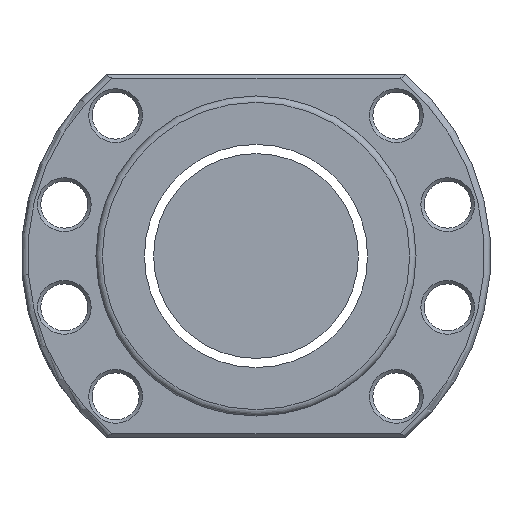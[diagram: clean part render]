
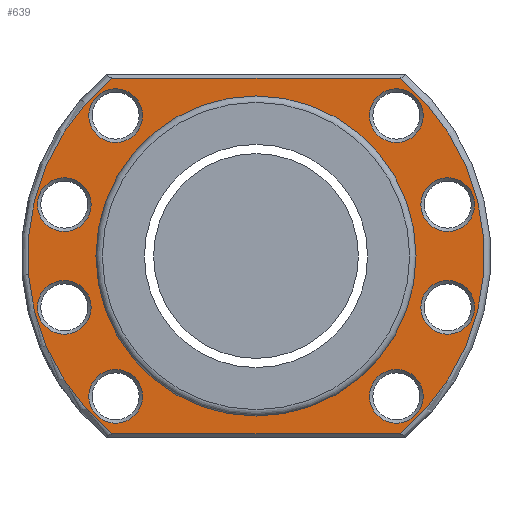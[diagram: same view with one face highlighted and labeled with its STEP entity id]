
A CAD part, left-side view. The second image highlights one B-rep face of the part: STEP entity #639.
In plain terms, the highlighted planar face has unit normal (-1, 0, 0).
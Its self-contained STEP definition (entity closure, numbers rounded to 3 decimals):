
#15 = DIRECTION ( 'NONE',  ( 0., 0., 1. ) ) ;
#53 = DIRECTION ( 'NONE',  ( 0., 0., -1. ) ) ;
#54 = CARTESIAN_POINT ( 'NONE',  ( -46.5, -33.517, -41.7 ) ) ;
#94 = ORIENTED_EDGE ( 'NONE', *, *, #505, .T. ) ;
#100 = CARTESIAN_POINT ( 'NONE',  ( -46.5, 0., 0. ) ) ;
#128 = ORIENTED_EDGE ( 'NONE', *, *, #2424, .T. ) ;
#142 = EDGE_CURVE ( 'NONE', #1660, #2492, #258, .T. ) ;
#172 = DIRECTION ( 'NONE',  ( 0., 0., 1. ) ) ;
#187 = FACE_BOUND ( 'NONE', #2268, .T. ) ;
#197 = ORIENTED_EDGE ( 'NONE', *, *, #2325, .T. ) ;
#254 = EDGE_CURVE ( 'NONE', #3016, #3016, #2153, .T. ) ;
#255 = CARTESIAN_POINT ( 'NONE',  ( -46.5, 44.916, -12.035 ) ) ;
#258 = LINE ( 'NONE', #603, #3193 ) ;
#262 = VERTEX_POINT ( 'NONE', #1552 ) ;
#290 = CARTESIAN_POINT ( 'NONE',  ( -46.5, 32.88, -32.88 ) ) ;
#373 = AXIS2_PLACEMENT_3D ( 'NONE', #645, #1918, #1693 ) ;
#391 = AXIS2_PLACEMENT_3D ( 'NONE', #1178, #2251, #172 ) ;
#418 = CARTESIAN_POINT ( 'NONE',  ( -46.5, 55., 41.7 ) ) ;
#467 = ORIENTED_EDGE ( 'NONE', *, *, #1555, .T. ) ;
#471 = CARTESIAN_POINT ( 'NONE',  ( -46.5, -32.88, -26.58 ) ) ;
#481 = EDGE_LOOP ( 'NONE', ( #2071 ) ) ;
#503 = DIRECTION ( 'NONE',  ( 1., 0., 0. ) ) ;
#504 = AXIS2_PLACEMENT_3D ( 'NONE', #2324, #960, #2306 ) ;
#505 = EDGE_CURVE ( 'NONE', #2246, #2246, #1601, .T. ) ;
#519 = DIRECTION ( 'NONE',  ( 0., 0., 1. ) ) ;
#527 = DIRECTION ( 'NONE',  ( 0., 0., 1. ) ) ;
#598 = AXIS2_PLACEMENT_3D ( 'NONE', #290, #3195, #527 ) ;
#603 = CARTESIAN_POINT ( 'NONE',  ( -46.5, 55., -41.7 ) ) ;
#636 = ORIENTED_EDGE ( 'NONE', *, *, #3070, .T. ) ;
#639 = ADVANCED_FACE ( 'NONE', ( #1780, #1273, #3362, #712, #187, #2333, #2795, #1015, #1226, #2557 ), #696, .T. ) ;
#645 = CARTESIAN_POINT ( 'NONE',  ( -46.5, -44.916, -12.035 ) ) ;
#668 = AXIS2_PLACEMENT_3D ( 'NONE', #2130, #2667, #1124 ) ;
#696 = PLANE ( 'NONE',  #2753 ) ;
#712 = FACE_BOUND ( 'NONE', #2208, .T. ) ;
#760 = DIRECTION ( 'NONE',  ( 0., 0., 1. ) ) ;
#790 = CARTESIAN_POINT ( 'NONE',  ( -46.5, 32.88, 39.18 ) ) ;
#800 = CARTESIAN_POINT ( 'NONE',  ( -46.5, 33.517, -41.7 ) ) ;
#803 = DIRECTION ( 'NONE',  ( 0., -1., 0. ) ) ;
#833 = EDGE_LOOP ( 'NONE', ( #1731 ) ) ;
#898 = ORIENTED_EDGE ( 'NONE', *, *, #2914, .T. ) ;
#920 = CIRCLE ( 'NONE', #3344, 53.5 ) ;
#960 = DIRECTION ( 'NONE',  ( 1., 0., 0. ) ) ;
#1000 = CARTESIAN_POINT ( 'NONE',  ( -46.5, 0., 0. ) ) ;
#1015 = FACE_BOUND ( 'NONE', #1740, .T. ) ;
#1102 = CIRCLE ( 'NONE', #3030, 37.5 ) ;
#1124 = DIRECTION ( 'NONE',  ( 0., 0., 1. ) ) ;
#1178 = CARTESIAN_POINT ( 'NONE',  ( -46.5, -32.88, 32.88 ) ) ;
#1219 = CIRCLE ( 'NONE', #504, 6.3 ) ;
#1226 = FACE_BOUND ( 'NONE', #481, .T. ) ;
#1267 = EDGE_LOOP ( 'NONE', ( #467 ) ) ;
#1268 = AXIS2_PLACEMENT_3D ( 'NONE', #1000, #3039, #519 ) ;
#1270 = ORIENTED_EDGE ( 'NONE', *, *, #142, .T. ) ;
#1271 = CARTESIAN_POINT ( 'NONE',  ( -46.5, 44.916, -5.735 ) ) ;
#1273 = FACE_BOUND ( 'NONE', #833, .T. ) ;
#1297 = ORIENTED_EDGE ( 'NONE', *, *, #2254, .T. ) ;
#1324 = AXIS2_PLACEMENT_3D ( 'NONE', #2000, #2995, #3048 ) ;
#1393 = CARTESIAN_POINT ( 'NONE',  ( -46.5, 33.517, 41.7 ) ) ;
#1418 = CIRCLE ( 'NONE', #598, 6.3 ) ;
#1423 = DIRECTION ( 'NONE',  ( 0., 0., 1. ) ) ;
#1503 = VERTEX_POINT ( 'NONE', #2113 ) ;
#1509 = VERTEX_POINT ( 'NONE', #1393 ) ;
#1534 = EDGE_LOOP ( 'NONE', ( #898 ) ) ;
#1551 = ORIENTED_EDGE ( 'NONE', *, *, #3184, .T. ) ;
#1552 = CARTESIAN_POINT ( 'NONE',  ( -46.5, 0., -37.5 ) ) ;
#1555 = EDGE_CURVE ( 'NONE', #3392, #3392, #3194, .T. ) ;
#1568 = VERTEX_POINT ( 'NONE', #790 ) ;
#1601 = CIRCLE ( 'NONE', #2039, 6.3 ) ;
#1628 = ORIENTED_EDGE ( 'NONE', *, *, #2040, .T. ) ;
#1660 = VERTEX_POINT ( 'NONE', #800 ) ;
#1681 = EDGE_CURVE ( 'NONE', #262, #262, #1102, .T. ) ;
#1693 = DIRECTION ( 'NONE',  ( 0., 0., 1. ) ) ;
#1731 = ORIENTED_EDGE ( 'NONE', *, *, #3291, .T. ) ;
#1740 = EDGE_LOOP ( 'NONE', ( #636 ) ) ;
#1748 = CIRCLE ( 'NONE', #373, 6.3 ) ;
#1780 = FACE_BOUND ( 'NONE', #2848, .T. ) ;
#1918 = DIRECTION ( 'NONE',  ( 1., 0., 0. ) ) ;
#1921 = CARTESIAN_POINT ( 'NONE',  ( -46.5, 0., 0. ) ) ;
#2000 = CARTESIAN_POINT ( 'NONE',  ( -46.5, -32.88, -32.88 ) ) ;
#2020 = CARTESIAN_POINT ( 'NONE',  ( -46.5, -32.88, 39.18 ) ) ;
#2039 = AXIS2_PLACEMENT_3D ( 'NONE', #2588, #503, #760 ) ;
#2040 = EDGE_CURVE ( 'NONE', #2492, #1503, #2321, .T. ) ;
#2053 = VERTEX_POINT ( 'NONE', #2844 ) ;
#2071 = ORIENTED_EDGE ( 'NONE', *, *, #1681, .T. ) ;
#2085 = CARTESIAN_POINT ( 'NONE',  ( -46.5, 44.916, 18.335 ) ) ;
#2113 = CARTESIAN_POINT ( 'NONE',  ( -46.5, -33.517, 41.7 ) ) ;
#2128 = DIRECTION ( 'NONE',  ( 1., 0., 0. ) ) ;
#2130 = CARTESIAN_POINT ( 'NONE',  ( -46.5, 44.916, 12.035 ) ) ;
#2153 = CIRCLE ( 'NONE', #391, 6.3 ) ;
#2158 = VECTOR ( 'NONE', #3308, 1000. ) ;
#2208 = EDGE_LOOP ( 'NONE', ( #2457 ) ) ;
#2246 = VERTEX_POINT ( 'NONE', #3293 ) ;
#2251 = DIRECTION ( 'NONE',  ( 1., 0., 0. ) ) ;
#2254 = EDGE_CURVE ( 'NONE', #1503, #1509, #2278, .T. ) ;
#2265 = DIRECTION ( 'NONE',  ( 0., 0., 1. ) ) ;
#2268 = EDGE_LOOP ( 'NONE', ( #128 ) ) ;
#2278 = LINE ( 'NONE', #418, #2158 ) ;
#2297 = VERTEX_POINT ( 'NONE', #2331 ) ;
#2306 = DIRECTION ( 'NONE',  ( 0., 0., 1. ) ) ;
#2321 = CIRCLE ( 'NONE', #1268, 53.5 ) ;
#2324 = CARTESIAN_POINT ( 'NONE',  ( -46.5, 32.88, 32.88 ) ) ;
#2325 = EDGE_CURVE ( 'NONE', #3148, #3148, #2815, .T. ) ;
#2331 = CARTESIAN_POINT ( 'NONE',  ( -46.5, 32.88, -26.58 ) ) ;
#2333 = FACE_BOUND ( 'NONE', #1267, .T. ) ;
#2416 = CIRCLE ( 'NONE', #2687, 6.3 ) ;
#2424 = EDGE_CURVE ( 'NONE', #1568, #1568, #1219, .T. ) ;
#2457 = ORIENTED_EDGE ( 'NONE', *, *, #254, .T. ) ;
#2492 = VERTEX_POINT ( 'NONE', #54 ) ;
#2557 = FACE_OUTER_BOUND ( 'NONE', #2858, .T. ) ;
#2588 = CARTESIAN_POINT ( 'NONE',  ( -46.5, -44.916, 12.035 ) ) ;
#2667 = DIRECTION ( 'NONE',  ( 1., 0., 0. ) ) ;
#2687 = AXIS2_PLACEMENT_3D ( 'NONE', #255, #2128, #15 ) ;
#2699 = DIRECTION ( 'NONE',  ( -1., 0., 0. ) ) ;
#2753 = AXIS2_PLACEMENT_3D ( 'NONE', #2833, #3069, #2265 ) ;
#2795 = FACE_BOUND ( 'NONE', #1534, .T. ) ;
#2815 = CIRCLE ( 'NONE', #1324, 6.3 ) ;
#2833 = CARTESIAN_POINT ( 'NONE',  ( -46.5, 55., 0. ) ) ;
#2844 = CARTESIAN_POINT ( 'NONE',  ( -46.5, -44.916, -5.735 ) ) ;
#2848 = EDGE_LOOP ( 'NONE', ( #197 ) ) ;
#2858 = EDGE_LOOP ( 'NONE', ( #1551, #1270, #1628, #1297 ) ) ;
#2910 = EDGE_LOOP ( 'NONE', ( #94 ) ) ;
#2914 = EDGE_CURVE ( 'NONE', #3375, #3375, #2416, .T. ) ;
#2995 = DIRECTION ( 'NONE',  ( 1., 0., 0. ) ) ;
#3016 = VERTEX_POINT ( 'NONE', #2020 ) ;
#3030 = AXIS2_PLACEMENT_3D ( 'NONE', #1921, #3214, #53 ) ;
#3039 = DIRECTION ( 'NONE',  ( -1., 0., 0. ) ) ;
#3048 = DIRECTION ( 'NONE',  ( 0., 0., 1. ) ) ;
#3069 = DIRECTION ( 'NONE',  ( -1., 0., 0. ) ) ;
#3070 = EDGE_CURVE ( 'NONE', #2297, #2297, #1418, .T. ) ;
#3148 = VERTEX_POINT ( 'NONE', #471 ) ;
#3184 = EDGE_CURVE ( 'NONE', #1509, #1660, #920, .T. ) ;
#3193 = VECTOR ( 'NONE', #803, 1000. ) ;
#3194 = CIRCLE ( 'NONE', #668, 6.3 ) ;
#3195 = DIRECTION ( 'NONE',  ( 1., 0., 0. ) ) ;
#3214 = DIRECTION ( 'NONE',  ( 1., 0., 0. ) ) ;
#3291 = EDGE_CURVE ( 'NONE', #2053, #2053, #1748, .T. ) ;
#3293 = CARTESIAN_POINT ( 'NONE',  ( -46.5, -44.916, 18.335 ) ) ;
#3308 = DIRECTION ( 'NONE',  ( 0., 1., 0. ) ) ;
#3344 = AXIS2_PLACEMENT_3D ( 'NONE', #100, #2699, #1423 ) ;
#3362 = FACE_BOUND ( 'NONE', #2910, .T. ) ;
#3375 = VERTEX_POINT ( 'NONE', #1271 ) ;
#3392 = VERTEX_POINT ( 'NONE', #2085 ) ;
